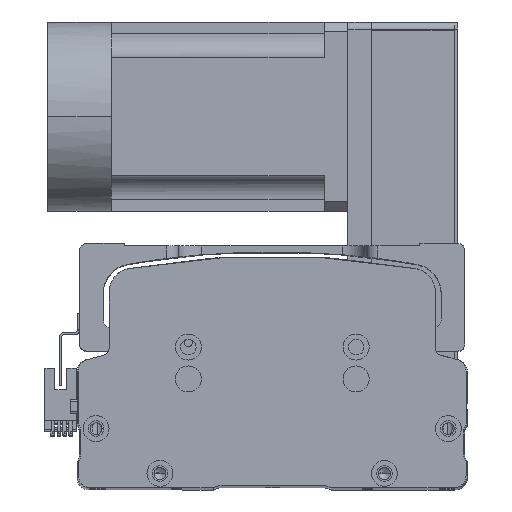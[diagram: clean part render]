
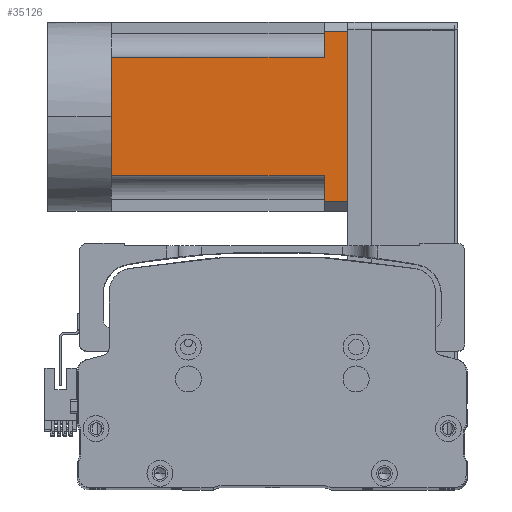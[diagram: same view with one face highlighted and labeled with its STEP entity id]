
A CAD part, top view. The second image highlights one B-rep face of the part: STEP entity #35126.
In plain terms, the highlighted planar face has unit normal (0, 0, 1) as drawn and (0, 0, -1) by its records, which use the part's own axes.
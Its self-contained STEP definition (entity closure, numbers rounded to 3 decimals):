
#104 = LINE ( 'NONE', #29225, #48857 ) ;
#329 = CARTESIAN_POINT ( 'NONE',  ( -25., -27., -40. ) ) ;
#467 = VECTOR ( 'NONE', #23994, 1000. ) ;
#744 = VERTEX_POINT ( 'NONE', #22230 ) ;
#1294 = CARTESIAN_POINT ( 'NONE',  ( -40., -27., -40. ) ) ;
#1455 = LINE ( 'NONE', #41602, #26573 ) ;
#1492 = DIRECTION ( 'NONE',  ( 0., 0., -1. ) ) ;
#1685 = VERTEX_POINT ( 'NONE', #50297 ) ;
#2319 = EDGE_CURVE ( 'NONE', #35791, #55290, #28506, .T. ) ;
#3921 = CARTESIAN_POINT ( 'NONE',  ( -36., 100., -40. ) ) ;
#5095 = DIRECTION ( 'NONE',  ( 0., 1., 0. ) ) ;
#5523 = ORIENTED_EDGE ( 'NONE', *, *, #39826, .F. ) ;
#5585 = ORIENTED_EDGE ( 'NONE', *, *, #54686, .T. ) ;
#5803 = VERTEX_POINT ( 'NONE', #42242 ) ;
#7128 = EDGE_LOOP ( 'NONE', ( #5523, #58014, #58022, #31817, #25593, #20661, #5585, #26538, #10115 ) ) ;
#7959 = DIRECTION ( 'NONE',  ( -1., 0., 0. ) ) ;
#8422 = LINE ( 'NONE', #329, #44582 ) ;
#8591 = DIRECTION ( 'NONE',  ( -1., 0., 0. ) ) ;
#8623 = LINE ( 'NONE', #52306, #467 ) ;
#9469 = CARTESIAN_POINT ( 'NONE',  ( -40., 0., -40. ) ) ;
#10115 = ORIENTED_EDGE ( 'NONE', *, *, #29310, .T. ) ;
#10921 = EDGE_CURVE ( 'NONE', #5803, #38631, #11093, .T. ) ;
#11093 = LINE ( 'NONE', #26678, #59849 ) ;
#11481 = LINE ( 'NONE', #51047, #47716 ) ;
#15847 = EDGE_CURVE ( 'NONE', #1685, #32433, #104, .T. ) ;
#18818 = DIRECTION ( 'NONE',  ( -1., 0., 0. ) ) ;
#20661 = ORIENTED_EDGE ( 'NONE', *, *, #30846, .T. ) ;
#22230 = CARTESIAN_POINT ( 'NONE',  ( -25., 0., -40. ) ) ;
#22464 = CARTESIAN_POINT ( 'NONE',  ( -36., 90., -40. ) ) ;
#23220 = LINE ( 'NONE', #9469, #45402 ) ;
#23994 = DIRECTION ( 'NONE',  ( 0., 1., 0. ) ) ;
#25593 = ORIENTED_EDGE ( 'NONE', *, *, #36602, .T. ) ;
#26538 = ORIENTED_EDGE ( 'NONE', *, *, #10921, .T. ) ;
#26573 = VECTOR ( 'NONE', #8591, 1000. ) ;
#26678 = CARTESIAN_POINT ( 'NONE',  ( -40., 90., -40. ) ) ;
#28193 = VERTEX_POINT ( 'NONE', #3921 ) ;
#28335 = VERTEX_POINT ( 'NONE', #57345 ) ;
#28454 = VECTOR ( 'NONE', #18818, 1000. ) ;
#28506 = LINE ( 'NONE', #39043, #41087 ) ;
#29225 = CARTESIAN_POINT ( 'NONE',  ( 25., -27., -40. ) ) ;
#29310 = EDGE_CURVE ( 'NONE', #38631, #28193, #8623, .T. ) ;
#30846 = EDGE_CURVE ( 'NONE', #28335, #744, #23220, .T. ) ;
#31817 = ORIENTED_EDGE ( 'NONE', *, *, #15847, .T. ) ;
#32433 = VERTEX_POINT ( 'NONE', #45053 ) ;
#34268 = DIRECTION ( 'NONE',  ( 0., -1., 0. ) ) ;
#34569 = DIRECTION ( 'NONE',  ( -1., 0., 0. ) ) ;
#35126 = ADVANCED_FACE ( 'NONE', ( #45261 ), #58065, .T. ) ;
#35791 = VERTEX_POINT ( 'NONE', #58388 ) ;
#36602 = EDGE_CURVE ( 'NONE', #32433, #28335, #1455, .T. ) ;
#38631 = VERTEX_POINT ( 'NONE', #22464 ) ;
#39043 = CARTESIAN_POINT ( 'NONE',  ( 36., -27., -40. ) ) ;
#39826 = EDGE_CURVE ( 'NONE', #35791, #28193, #11481, .T. ) ;
#41031 = LINE ( 'NONE', #47142, #28454 ) ;
#41087 = VECTOR ( 'NONE', #34268, 1000. ) ;
#41602 = CARTESIAN_POINT ( 'NONE',  ( -40., 0., -40. ) ) ;
#42242 = CARTESIAN_POINT ( 'NONE',  ( -25., 90., -40. ) ) ;
#42484 = DIRECTION ( 'NONE',  ( -1., 0., 0. ) ) ;
#44582 = VECTOR ( 'NONE', #5095, 1000. ) ;
#45053 = CARTESIAN_POINT ( 'NONE',  ( 25., 0., -40. ) ) ;
#45261 = FACE_OUTER_BOUND ( 'NONE', #7128, .T. ) ;
#45402 = VECTOR ( 'NONE', #42484, 1000. ) ;
#46328 = DIRECTION ( 'NONE',  ( -1., 0., 0. ) ) ;
#47142 = CARTESIAN_POINT ( 'NONE',  ( -40., 90., -40. ) ) ;
#47716 = VECTOR ( 'NONE', #46328, 1000. ) ;
#48063 = AXIS2_PLACEMENT_3D ( 'NONE', #1294, #1492, #34569 ) ;
#48172 = CARTESIAN_POINT ( 'NONE',  ( 36., 90., -40. ) ) ;
#48857 = VECTOR ( 'NONE', #57506, 1000. ) ;
#50297 = CARTESIAN_POINT ( 'NONE',  ( 25., 90., -40. ) ) ;
#51047 = CARTESIAN_POINT ( 'NONE',  ( -40., 100., -40. ) ) ;
#52306 = CARTESIAN_POINT ( 'NONE',  ( -36., -27., -40. ) ) ;
#54686 = EDGE_CURVE ( 'NONE', #744, #5803, #8422, .T. ) ;
#55290 = VERTEX_POINT ( 'NONE', #48172 ) ;
#55609 = EDGE_CURVE ( 'NONE', #55290, #1685, #41031, .T. ) ;
#57345 = CARTESIAN_POINT ( 'NONE',  ( 0., 0., -40. ) ) ;
#57506 = DIRECTION ( 'NONE',  ( 0., -1., 0. ) ) ;
#58014 = ORIENTED_EDGE ( 'NONE', *, *, #2319, .T. ) ;
#58022 = ORIENTED_EDGE ( 'NONE', *, *, #55609, .T. ) ;
#58065 = PLANE ( 'NONE',  #48063 ) ;
#58388 = CARTESIAN_POINT ( 'NONE',  ( 36., 100., -40. ) ) ;
#59849 = VECTOR ( 'NONE', #7959, 1000. ) ;
